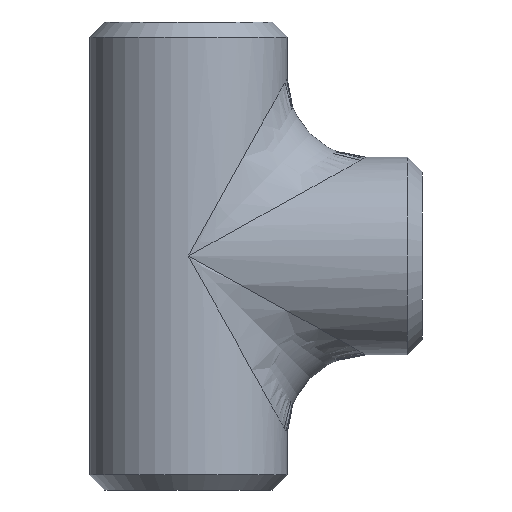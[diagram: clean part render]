
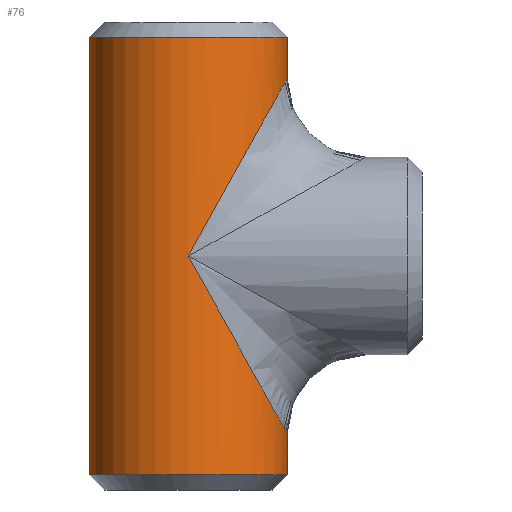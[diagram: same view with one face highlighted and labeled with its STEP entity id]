
A CAD part, front view. The second image highlights one B-rep face of the part: STEP entity #76.
In plain terms, the highlighted cylindrical face has radius 24.15 mm (diameter 48.3 mm), a partial arc.
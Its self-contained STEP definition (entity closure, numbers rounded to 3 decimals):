
#6 = VECTOR ( 'NONE', #1039, 1000. ) ;
#50 = DIRECTION ( 'NONE',  ( 0., 0., 1. ) ) ;
#76 = ADVANCED_FACE ( 'NONE', ( #425 ), #537, .T. ) ;
#102 = CARTESIAN_POINT ( 'NONE',  ( 24.15, 0., 43.47 ) ) ;
#121 = CARTESIAN_POINT ( 'NONE',  ( 24.15, -14.147, -43.47 ) ) ;
#124 = VERTEX_POINT ( 'NONE', #1031 ) ;
#129 = CARTESIAN_POINT ( 'NONE',  ( 14.147, -24.15, 25.464 ) ) ;
#132 = CARTESIAN_POINT ( 'NONE',  ( 24.15, 0., 57.2 ) ) ;
#135 = CARTESIAN_POINT ( 'NONE',  ( 0., -24.15, 0. ) ) ;
#137 = ORIENTED_EDGE ( 'NONE', *, *, #1242, .T. ) ;
#149 =( BOUNDED_CURVE ( )  B_SPLINE_CURVE ( 3, ( #1045, #121, #1257, #135 ),
 .UNSPECIFIED., .F., .T. ) 
 B_SPLINE_CURVE_WITH_KNOTS ( ( 4, 4 ),
 ( 3.142, 4.712 ),
 .UNSPECIFIED. ) 
 CURVE ( )  GEOMETRIC_REPRESENTATION_ITEM ( )  RATIONAL_B_SPLINE_CURVE ( ( 1., 0.805, 0.805, 1. ) ) 
 REPRESENTATION_ITEM ( '' )  );
#187 = ORIENTED_EDGE ( 'NONE', *, *, #372, .T. ) ;
#205 = VERTEX_POINT ( 'NONE', #1336 ) ;
#207 = ORIENTED_EDGE ( 'NONE', *, *, #367, .F. ) ;
#227 = DIRECTION ( 'NONE',  ( 1., 0., 0. ) ) ;
#257 = LINE ( 'NONE', #981, #1097 ) ;
#279 = CARTESIAN_POINT ( 'NONE',  ( 0., 0., 57.2 ) ) ;
#329 = EDGE_CURVE ( 'NONE', #124, #205, #1140, .T. ) ;
#339 = CARTESIAN_POINT ( 'NONE',  ( 24.15, 0., 43.47 ) ) ;
#342 = EDGE_CURVE ( 'NONE', #624, #392, #685, .T. ) ;
#350 = CARTESIAN_POINT ( 'NONE',  ( -24.15, 0., 57.2 ) ) ;
#367 = EDGE_CURVE ( 'NONE', #624, #1008, #257, .T. ) ;
#369 = LINE ( 'NONE', #350, #858 ) ;
#372 = EDGE_CURVE ( 'NONE', #804, #205, #871, .T. ) ;
#374 = CARTESIAN_POINT ( 'NONE',  ( -24.15, 0., -53.53 ) ) ;
#392 = VERTEX_POINT ( 'NONE', #975 ) ;
#425 = FACE_OUTER_BOUND ( 'NONE', #516, .T. ) ;
#449 = CARTESIAN_POINT ( 'NONE',  ( 24.15, -14.147, 43.47 ) ) ;
#465 = CARTESIAN_POINT ( 'NONE',  ( 0., 0., -53.53 ) ) ;
#516 = EDGE_LOOP ( 'NONE', ( #207, #841, #1138, #187, #613, #824, #137 ) ) ;
#524 = AXIS2_PLACEMENT_3D ( 'NONE', #465, #50, #883 ) ;
#537 = CYLINDRICAL_SURFACE ( 'NONE', #1151, 24.15 ) ;
#595 = EDGE_CURVE ( 'NONE', #392, #804, #369, .T. ) ;
#613 = ORIENTED_EDGE ( 'NONE', *, *, #329, .F. ) ;
#624 = VERTEX_POINT ( 'NONE', #1186 ) ;
#650 = CARTESIAN_POINT ( 'NONE',  ( 0., -24.15, 0. ) ) ;
#685 = CIRCLE ( 'NONE', #934, 24.15 ) ;
#687 = DIRECTION ( 'NONE',  ( -1., 0., 0. ) ) ;
#769 = DIRECTION ( 'NONE',  ( 0., 0., -1. ) ) ;
#804 = VERTEX_POINT ( 'NONE', #374 ) ;
#824 = ORIENTED_EDGE ( 'NONE', *, *, #1312, .T. ) ;
#841 = ORIENTED_EDGE ( 'NONE', *, *, #342, .T. ) ;
#858 = VECTOR ( 'NONE', #769, 1000. ) ;
#871 = CIRCLE ( 'NONE', #524, 24.15 ) ;
#873 = DIRECTION ( 'NONE',  ( 0., 0., -1. ) ) ;
#883 = DIRECTION ( 'NONE',  ( 1., 0., 0. ) ) ;
#934 = AXIS2_PLACEMENT_3D ( 'NONE', #952, #1226, #227 ) ;
#952 = CARTESIAN_POINT ( 'NONE',  ( 0., 0., 53.53 ) ) ;
#975 = CARTESIAN_POINT ( 'NONE',  ( -24.15, 0., 53.53 ) ) ;
#981 = CARTESIAN_POINT ( 'NONE',  ( 24.15, 0., 57.2 ) ) ;
#1008 = VERTEX_POINT ( 'NONE', #102 ) ;
#1026 = VERTEX_POINT ( 'NONE', #1333 ) ;
#1031 = CARTESIAN_POINT ( 'NONE',  ( 24.15, 0., -43.47 ) ) ;
#1039 = DIRECTION ( 'NONE',  ( 0., 0., -1. ) ) ;
#1045 = CARTESIAN_POINT ( 'NONE',  ( 24.15, 0., -43.47 ) ) ;
#1097 = VECTOR ( 'NONE', #873, 1000. ) ;
#1138 = ORIENTED_EDGE ( 'NONE', *, *, #595, .T. ) ;
#1140 = LINE ( 'NONE', #132, #6 ) ;
#1151 = AXIS2_PLACEMENT_3D ( 'NONE', #279, #1307, #687 ) ;
#1186 = CARTESIAN_POINT ( 'NONE',  ( 24.15, 0., 53.53 ) ) ;
#1226 = DIRECTION ( 'NONE',  ( 0., 0., -1. ) ) ;
#1242 = EDGE_CURVE ( 'NONE', #1026, #1008, #1263, .T. ) ;
#1257 = CARTESIAN_POINT ( 'NONE',  ( 14.147, -24.15, -25.464 ) ) ;
#1263 =( BOUNDED_CURVE ( )  B_SPLINE_CURVE ( 3, ( #650, #129, #449, #339 ),
 .UNSPECIFIED., .F., .F. ) 
 B_SPLINE_CURVE_WITH_KNOTS ( ( 4, 4 ),
 ( 1.571, 3.142 ),
 .UNSPECIFIED. ) 
 CURVE ( )  GEOMETRIC_REPRESENTATION_ITEM ( )  RATIONAL_B_SPLINE_CURVE ( ( 1., 0.805, 0.805, 1. ) ) 
 REPRESENTATION_ITEM ( '' )  );
#1307 = DIRECTION ( 'NONE',  ( 0., 0., -1. ) ) ;
#1312 = EDGE_CURVE ( 'NONE', #124, #1026, #149, .T. ) ;
#1333 = CARTESIAN_POINT ( 'NONE',  ( 0., -24.15, 0. ) ) ;
#1336 = CARTESIAN_POINT ( 'NONE',  ( 24.15, 0., -53.53 ) ) ;
